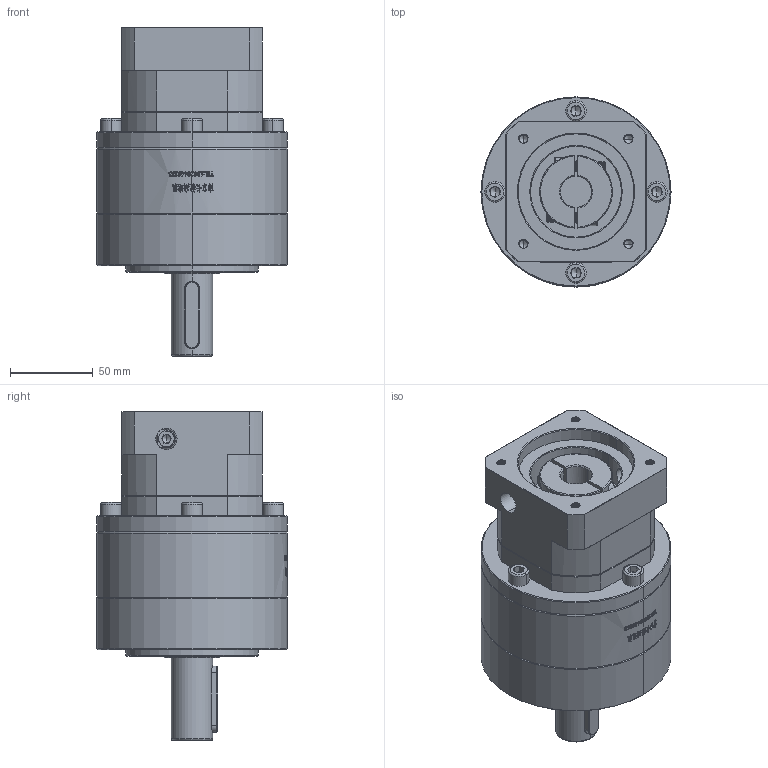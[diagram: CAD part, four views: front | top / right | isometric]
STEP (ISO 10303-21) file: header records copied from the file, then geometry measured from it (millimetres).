
FILE_DESCRIPTION (( 'STEP AP214' ), '1' );
FILE_NAME ('ZE120A-D25-L2-19-70-90-M6.step', '2023-03-13T06:49:22', ( '' ), ( '' ), 'SwSTEP 2.0', 'SolidWorks 2016', '' );
FILE_SCHEMA (( 'AUTOMOTIVE_DESIGN' ));
Length unit declared in the file: millimetre
Products named in the file (1): ZE120A-D25-L2-19-70-90-M6
Bounding box: 115 x 115 x 199 mm (x, y, z)
Volume: 1217102.7 mm3; surface area: 120470.8 mm2
Topology: 5 solids, 5 shells, 1990 faces, 5282 edges, 3380 vertices
Faces by surface type: plane 856, cylinder 494, bspline 348, cone 292
Entity records: 115704 total; most frequent: CARTESIAN_POINT 49130, ORIENTED_EDGE 10488, DIRECTION 7740, EDGE_CURVE 5244, VERTEX_POINT 3380, VECTOR 2784, LINE 2784, AXIS2_PLACEMENT_3D 2478
